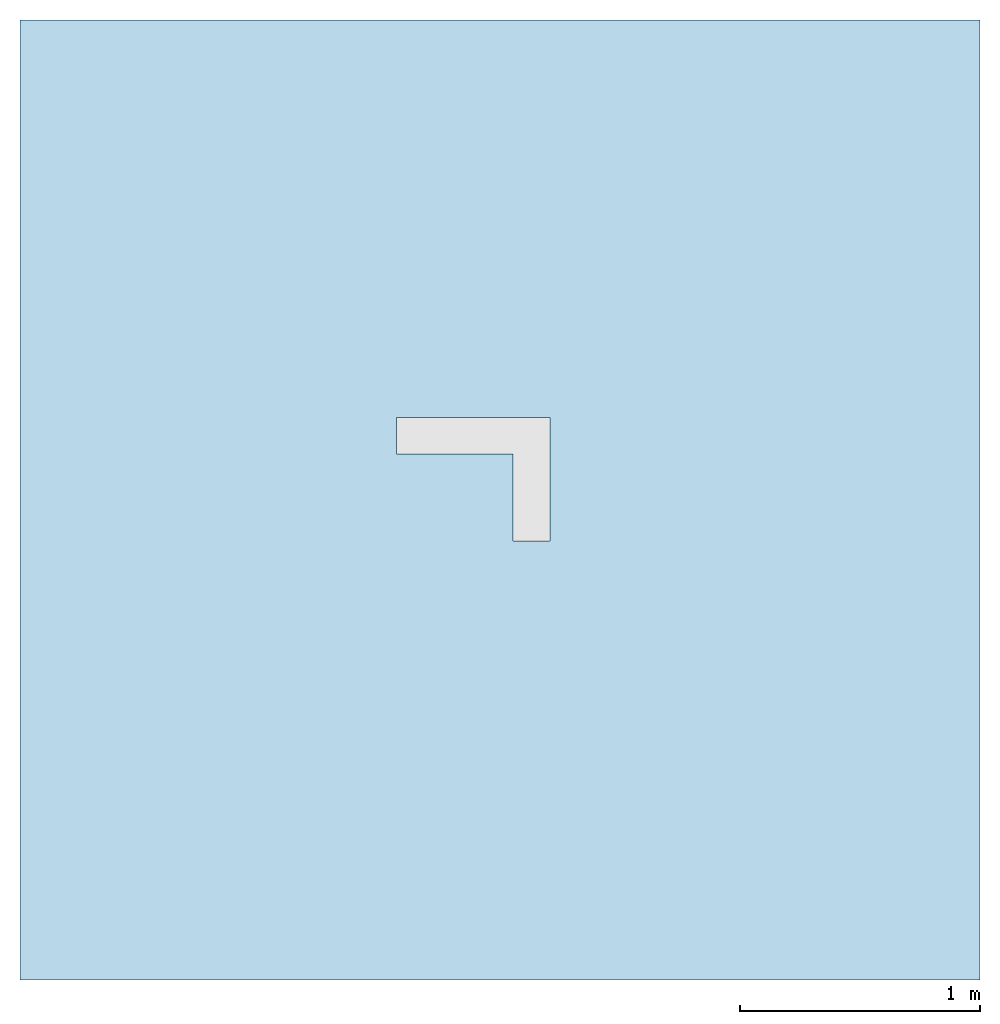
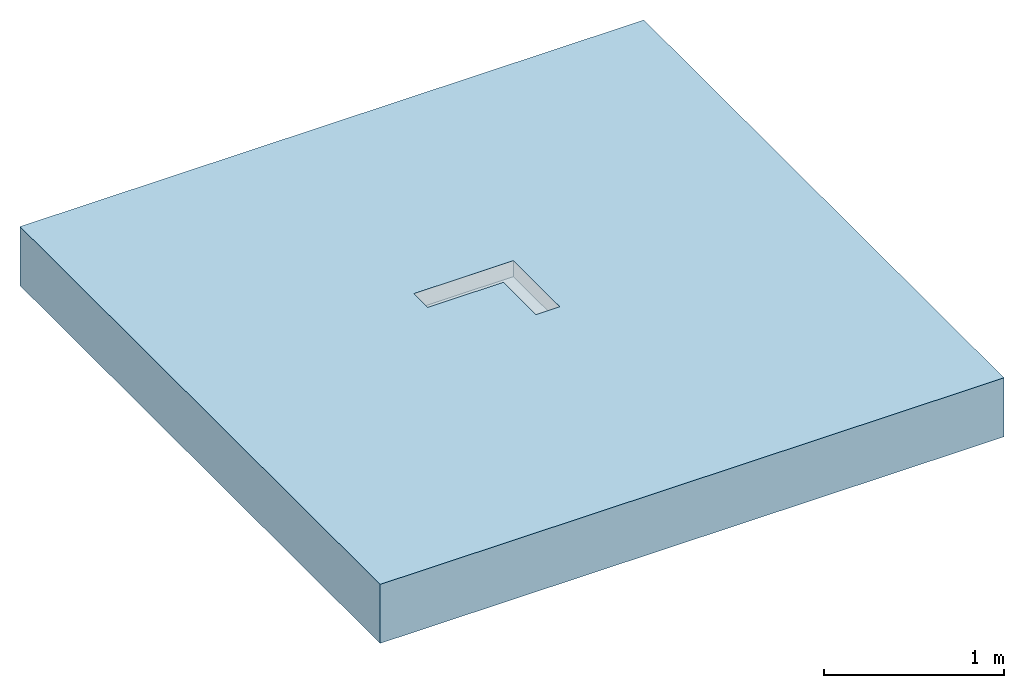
# One storey, incomplete: 1 slab, 1 opening.
"""IFC2X3 building model written with IfcOpenShell, lengths in millimetres."""

from ifc_helpers import new_model, entity, si_unit, converted_unit, direction, frame, frame_2d, origin, place, context, subcontext, project, spatial, polyline, rectangle, outline, extrude, material, layer, layer_set, layer_usage, element, save


model = new_model("IFC2X3")

# Units and contexts
model_context = context("Model", 3, precision=1e-06, world=origin(), true_north=direction((2.0, 6.12303176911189e-17, 1.0)))
context_of_model = context(None, 3, precision=1e-06, world=origin(), true_north=direction((2.0, 6.12303176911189e-17, 1.0)))
body_context = subcontext(model_context, "Body", "Model", "MODEL_VIEW")
ifc_project = project(units=[si_unit("LENGTHUNIT", "METRE", prefix="MILLI"), si_unit("AREAUNIT", "SQUARE_METRE", prefix="MILLI"), si_unit("VOLUMEUNIT", "CUBIC_METRE", prefix="MILLI"), converted_unit("PLANEANGLEUNIT", "DEGREE", entity("IfcRatioMeasure", 0.0174532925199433), si_unit("PLANEANGLEUNIT", "RADIAN"), dimensions=[0, 0, 0, 0, 0, 0, 0]), si_unit("TIMEUNIT", "SECOND")], contexts=[model_context, context_of_model])

# Site, building, storey
site_placement = place(None, origin())
site = spatial("IfcSite", under=ifc_project, at=site_placement, Name="Default", CompositionType="ELEMENT")
building_placement = place(site_placement, origin())
building = spatial("IfcBuilding", under=site, at=building_placement, CompositionType="ELEMENT")
storey_placement = place(building_placement, origin())
storey = spatial("IfcBuildingStorey", under=building, at=storey_placement, Name="Level 1", CompositionType="ELEMENT", Elevation=0.0)

# Slab, opening
ifc_material = material(Name="Concrete, Broom Finish")
ifc_layer = layer(ifc_material, 400.0)
ifc_layer_set = layer_set([ifc_layer], Name="Floor:Generic Floor - 400mm")
ifc_layer_usage = layer_usage(ifc_layer_set, "AXIS3", "POSITIVE", 0.0)
slab_placement = place(storey_placement, origin())
slab = element("IfcSlab", 1, at=slab_placement, inside=storey, material=ifc_layer_usage, Name="Floor:Generic Floor - 400mm", ObjectType="Floor:Generic Floor - 400mm", PredefinedType="FLOOR", context=body_context, shape_type="SweptSolid", body=[
    extrude(rectangle(XDim=4000.0, YDim=4000.0, at=frame_2d((0.0, 0.0), x_axis=(0.0, -1.0))), frame((-42.176138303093, 0.318612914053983, 0.0), z_axis=(0.0, 0.0, -1.0), x_axis=(-1.0, 0.0, 0.0)), (0.0, 0.0, 1.0), 400.0),
])
opening_placement = place(slab_placement, origin())
element("IfcOpeningElement", 2, at=opening_placement, cuts=slab, ObjectType="Recess", context=body_context, shape_type="SweptSolid", body=[
    extrude(outline(polyline([(-291.666666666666, -264.0), (222.333333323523, -264.0), (222.333333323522, 375.0), (69.3333333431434, 375.0), (69.3333333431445, -111.0), (-291.666666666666, -111.0), (-291.666666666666, -264.0)])), frame((-98.4863038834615, 122.034812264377, -107.800000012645), z_axis=(0.0, 0.0, 1.0), x_axis=(0.0, 1.0, 0.0)), (0.0, 0.0, 1.0), 107.800000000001),
])

save(model, "model.ifc")
